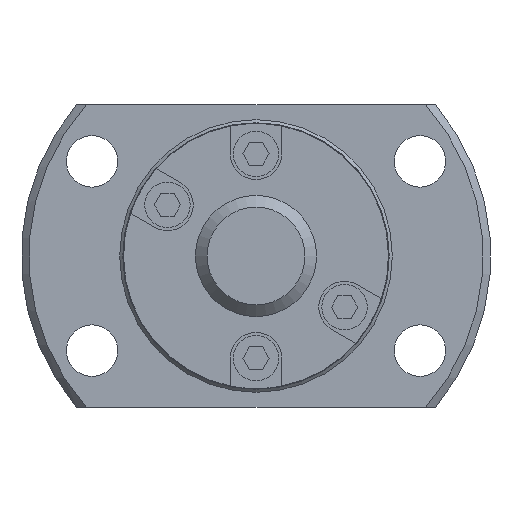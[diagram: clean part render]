
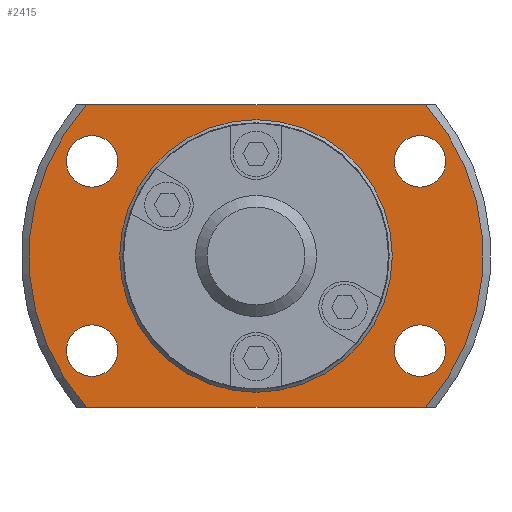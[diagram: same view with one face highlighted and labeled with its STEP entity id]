
A CAD part, left-side view. The second image highlights one B-rep face of the part: STEP entity #2415.
In plain terms, the highlighted planar face has unit normal (-1, 0, 0).
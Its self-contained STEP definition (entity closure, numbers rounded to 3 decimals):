
#138=LINE('',#3779,#364);
#139=LINE('',#3783,#365);
#364=VECTOR('',#3033,1000.);
#365=VECTOR('',#3036,1000.);
#678=ORIENTED_EDGE('',*,*,#1297,.F.);
#679=ORIENTED_EDGE('',*,*,#1298,.F.);
#680=ORIENTED_EDGE('',*,*,#1299,.F.);
#681=ORIENTED_EDGE('',*,*,#1300,.F.);
#682=ORIENTED_EDGE('',*,*,#1283,.F.);
#683=ORIENTED_EDGE('',*,*,#1301,.T.);
#684=ORIENTED_EDGE('',*,*,#1302,.F.);
#685=ORIENTED_EDGE('',*,*,#1303,.T.);
#686=ORIENTED_EDGE('',*,*,#1296,.T.);
#1283=EDGE_CURVE('',#1601,#1602,#1794,.T.);
#1296=EDGE_CURVE('',#1613,#1613,#1802,.T.);
#1297=EDGE_CURVE('',#1614,#1614,#1803,.F.);
#1298=EDGE_CURVE('',#1615,#1615,#1804,.F.);
#1299=EDGE_CURVE('',#1616,#1616,#1805,.F.);
#1300=EDGE_CURVE('',#1617,#1617,#1806,.F.);
#1301=EDGE_CURVE('',#1601,#1618,#138,.T.);
#1302=EDGE_CURVE('',#1619,#1618,#1807,.T.);
#1303=EDGE_CURVE('',#1619,#1602,#139,.T.);
#1601=VERTEX_POINT('',#3727);
#1602=VERTEX_POINT('',#3729);
#1613=VERTEX_POINT('',#3769);
#1614=VERTEX_POINT('',#3772);
#1615=VERTEX_POINT('',#3774);
#1616=VERTEX_POINT('',#3776);
#1617=VERTEX_POINT('',#3778);
#1618=VERTEX_POINT('',#3780);
#1619=VERTEX_POINT('',#3782);
#1794=CIRCLE('',#2624,15.);
#1802=CIRCLE('',#2639,8.85);
#1803=CIRCLE('',#2641,1.7);
#1804=CIRCLE('',#2642,1.7);
#1805=CIRCLE('',#2643,1.7);
#1806=CIRCLE('',#2644,1.7);
#1807=CIRCLE('',#2645,15.);
#1907=EDGE_LOOP('',(#678));
#1908=EDGE_LOOP('',(#679));
#1909=EDGE_LOOP('',(#680));
#1910=EDGE_LOOP('',(#681));
#1911=EDGE_LOOP('',(#682,#683,#684,#685));
#1912=EDGE_LOOP('',(#686));
#2121=FACE_BOUND('',#1907,.T.);
#2122=FACE_BOUND('',#1908,.T.);
#2123=FACE_BOUND('',#1909,.T.);
#2124=FACE_BOUND('',#1910,.T.);
#2125=FACE_BOUND('',#1911,.T.);
#2126=FACE_BOUND('',#1912,.T.);
#2294=PLANE('',#2640);
#2415=ADVANCED_FACE('',(#2121,#2122,#2123,#2124,#2125,#2126),#2294,.F.);
#2624=AXIS2_PLACEMENT_3D('',#3728,#2989,#2990);
#2639=AXIS2_PLACEMENT_3D('',#3768,#3021,#3022);
#2640=AXIS2_PLACEMENT_3D('',#3770,#3023,#3024);
#2641=AXIS2_PLACEMENT_3D('',#3771,#3025,#3026);
#2642=AXIS2_PLACEMENT_3D('',#3773,#3027,#3028);
#2643=AXIS2_PLACEMENT_3D('',#3775,#3029,#3030);
#2644=AXIS2_PLACEMENT_3D('',#3777,#3031,#3032);
#2645=AXIS2_PLACEMENT_3D('',#3781,#3034,#3035);
#2989=DIRECTION('',(1.,0.,0.));
#2990=DIRECTION('',(0.,0.,-1.));
#3021=DIRECTION('',(1.,0.,0.));
#3022=DIRECTION('',(0.,0.,-1.));
#3023=DIRECTION('',(1.,0.,0.));
#3024=DIRECTION('',(0.,0.,-1.));
#3025=DIRECTION('',(1.,0.,0.));
#3026=DIRECTION('',(0.,0.,-1.));
#3027=DIRECTION('',(1.,0.,0.));
#3028=DIRECTION('',(0.,0.,-1.));
#3029=DIRECTION('',(1.,0.,0.));
#3030=DIRECTION('',(0.,0.,-1.));
#3031=DIRECTION('',(1.,0.,0.));
#3032=DIRECTION('',(0.,0.,-1.));
#3033=DIRECTION('',(0.,-1.,0.));
#3034=DIRECTION('',(1.,0.,0.));
#3035=DIRECTION('',(0.,0.,-1.));
#3036=DIRECTION('',(0.,1.,0.));
#3727=CARTESIAN_POINT('',(17.,11.18,-10.));
#3728=CARTESIAN_POINT('',(17.,0.,0.));
#3729=CARTESIAN_POINT('',(17.,11.18,10.));
#3768=CARTESIAN_POINT('',(17.,0.,0.));
#3769=CARTESIAN_POINT('',(17.,0.,-8.85));
#3770=CARTESIAN_POINT('',(17.,8.85,0.));
#3771=CARTESIAN_POINT('',(17.,-10.825,-6.25));
#3772=CARTESIAN_POINT('',(17.,-10.825,-7.95));
#3773=CARTESIAN_POINT('',(17.,-10.825,6.25));
#3774=CARTESIAN_POINT('',(17.,-10.825,4.55));
#3775=CARTESIAN_POINT('',(17.,10.825,-6.25));
#3776=CARTESIAN_POINT('',(17.,10.825,-7.95));
#3777=CARTESIAN_POINT('',(17.,10.825,6.25));
#3778=CARTESIAN_POINT('',(17.,10.825,4.55));
#3779=CARTESIAN_POINT('',(17.,8.85,-10.));
#3780=CARTESIAN_POINT('',(17.,-11.18,-10.));
#3781=CARTESIAN_POINT('',(17.,0.,0.));
#3782=CARTESIAN_POINT('',(17.,-11.18,10.));
#3783=CARTESIAN_POINT('',(17.,8.85,10.));
